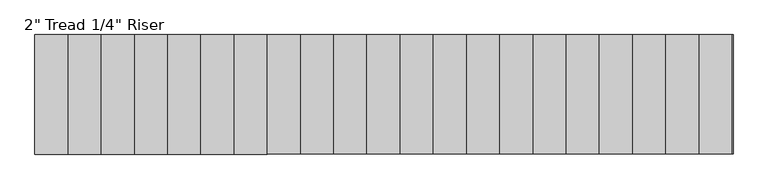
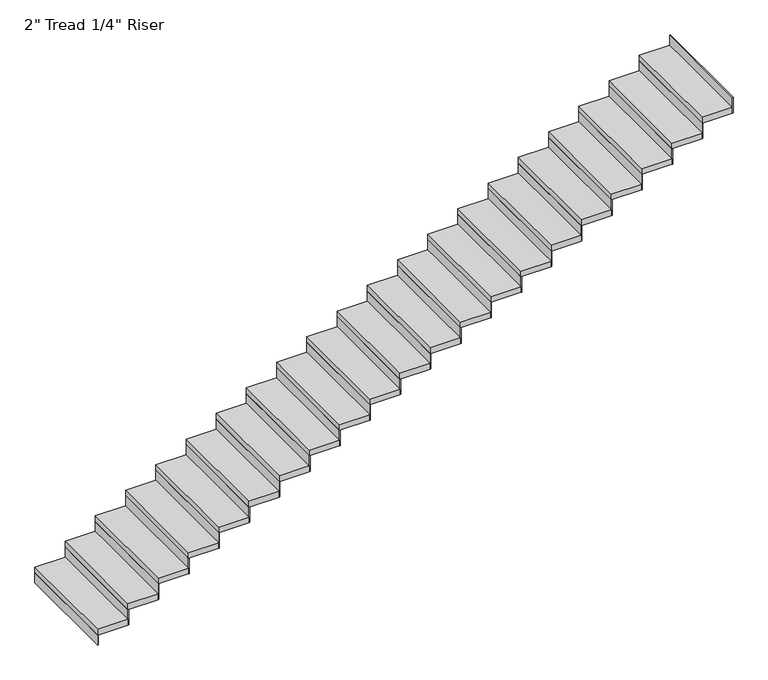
"""IFC4 building model written with IfcOpenShell, lengths in millimetres: stair flight geometry."""

from ifc_helpers import new_model, si_unit, frame, origin, origin_with_axes, place, context, project, spatial, polyline, outline, extrude, source, transform, mapped, element, save


def stair_flight_b5908534(model_context):
    return source(origin(), model_context, "Body", "SweptSolid", [
        extrude(outline(polyline([(35788.2667764, -2400.7855758), (35781.9167764, -2400.7855758), (35781.9167764, -1486.3855758), (35788.2667764, -1486.3855758), (35788.2667764, -2400.7855758)])), origin_with_axes(), (0.0, 0.0, 1.0), 87.7454545),
        extrude(outline(polyline([(36035.9167764, -1486.3855758), (36035.9167764, -2400.7855758), (35781.9167764, -2400.7855758), (35781.9167764, -1486.3855758), (36035.9167764, -1486.3855758)])), frame((0.0, 0.0, 87.7454545), z_axis=(0.0, 0.0, 1.0), x_axis=(1.0, 0.0, 0.0)), (0.0, 0.0, 1.0), 50.8),
        extrude(outline(polyline([(36042.2667764, -2400.7855758), (36035.9167764, -2400.7855758), (36035.9167764, -1486.3855758), (36042.2667764, -1486.3855758), (36042.2667764, -2400.7855758)])), frame((0.0, 0.0, 87.7454545), z_axis=(0.0, 0.0, 1.0), x_axis=(1.0, 0.0, 0.0)), (0.0, 0.0, 1.0), 138.5454545),
        extrude(outline(polyline([(36289.9167764, -1486.3855758), (36289.9167764, -2400.7855758), (36035.9167764, -2400.7855758), (36035.9167764, -1486.3855758), (36289.9167764, -1486.3855758)])), frame((0.0, 0.0, 226.2909091), z_axis=(0.0, 0.0, 1.0), x_axis=(1.0, 0.0, 0.0)), (0.0, 0.0, 1.0), 50.8),
        extrude(outline(polyline([(36296.2667764, -2400.7855758), (36289.9167764, -2400.7855758), (36289.9167764, -1486.3855758), (36296.2667764, -1486.3855758), (36296.2667764, -2400.7855758)])), frame((0.0, 0.0, 226.2909091), z_axis=(0.0, 0.0, 1.0), x_axis=(1.0, 0.0, 0.0)), (0.0, 0.0, 1.0), 138.5454545),
        extrude(outline(polyline([(36543.9167764, -1486.3855758), (36543.9167764, -2400.7855758), (36289.9167764, -2400.7855758), (36289.9167764, -1486.3855758), (36543.9167764, -1486.3855758)])), frame((0.0, 0.0, 364.8363636), z_axis=(0.0, 0.0, 1.0), x_axis=(1.0, 0.0, 0.0)), (0.0, 0.0, 1.0), 50.8),
        extrude(outline(polyline([(36550.2667764, -2400.7855758), (36543.9167764, -2400.7855758), (36543.9167764, -1486.3855758), (36550.2667764, -1486.3855758), (36550.2667764, -2400.7855758)])), frame((0.0, 0.0, 364.8363636), z_axis=(0.0, 0.0, 1.0), x_axis=(1.0, 0.0, 0.0)), (0.0, 0.0, 1.0), 138.5454545),
        extrude(outline(polyline([(36797.9167764, -1486.3855758), (36797.9167764, -2400.7855758), (36543.9167764, -2400.7855758), (36543.9167764, -1486.3855758), (36797.9167764, -1486.3855758)])), frame((0.0, 0.0, 503.3818182), z_axis=(0.0, 0.0, 1.0), x_axis=(1.0, 0.0, 0.0)), (0.0, 0.0, 1.0), 50.8),
        extrude(outline(polyline([(36804.2667764, -2400.7855758), (36797.9167764, -2400.7855758), (36797.9167764, -1486.3855758), (36804.2667764, -1486.3855758), (36804.2667764, -2400.7855758)])), frame((0.0, 0.0, 503.3818182), z_axis=(0.0, 0.0, 1.0), x_axis=(1.0, 0.0, 0.0)), (0.0, 0.0, 1.0), 138.5454545),
        extrude(outline(polyline([(37051.9167764, -1486.3855758), (37051.9167764, -2400.7855758), (36797.9167764, -2400.7855758), (36797.9167764, -1486.3855758), (37051.9167764, -1486.3855758)])), frame((0.0, 0.0, 641.9272727), z_axis=(0.0, 0.0, 1.0), x_axis=(1.0, 0.0, 0.0)), (0.0, 0.0, 1.0), 50.8),
        extrude(outline(polyline([(37058.2667764, -2400.7855758), (37051.9167764, -2400.7855758), (37051.9167764, -1486.3855758), (37058.2667764, -1486.3855758), (37058.2667764, -2400.7855758)])), frame((0.0, 0.0, 641.9272727), z_axis=(0.0, 0.0, 1.0), x_axis=(1.0, 0.0, 0.0)), (0.0, 0.0, 1.0), 138.5454545),
        extrude(outline(polyline([(37305.9167764, -1486.3855758), (37305.9167764, -2400.7855758), (37051.9167764, -2400.7855758), (37051.9167764, -1486.3855758), (37305.9167764, -1486.3855758)])), frame((0.0, 0.0, 780.4727273), z_axis=(0.0, 0.0, 1.0), x_axis=(1.0, 0.0, 0.0)), (0.0, 0.0, 1.0), 50.8),
        extrude(outline(polyline([(37312.2667764, -2400.7855758), (37305.9167764, -2400.7855758), (37305.9167764, -1486.3855758), (37312.2667764, -1486.3855758), (37312.2667764, -2400.7855758)])), frame((0.0, 0.0, 780.4727273), z_axis=(0.0, 0.0, 1.0), x_axis=(1.0, 0.0, 0.0)), (0.0, 0.0, 1.0), 138.5454545),
        extrude(outline(polyline([(37559.9167764, -1486.3855758), (37559.9167764, -2400.7855758), (37305.9167764, -2400.7855758), (37305.9167764, -1486.3855758), (37559.9167764, -1486.3855758)])), frame((0.0, 0.0, 919.0181818), z_axis=(0.0, 0.0, 1.0), x_axis=(1.0, 0.0, 0.0)), (0.0, 0.0, 1.0), 50.8),
        extrude(outline(polyline([(37566.2667764, -2400.7855758), (37559.9167764, -2400.7855758), (37559.9167764, -1486.3855758), (37566.2667764, -1486.3855758), (37566.2667764, -2400.7855758)])), frame((0.0, 0.0, 919.0181818), z_axis=(0.0, 0.0, 1.0), x_axis=(1.0, 0.0, 0.0)), (0.0, 0.0, 1.0), 138.5454545),
        extrude(outline(polyline([(37813.9167764, -1486.3855758), (37813.9167764, -2400.7855758), (37559.9167764, -2400.7855758), (37559.9167764, -1486.3855758), (37813.9167764, -1486.3855758)])), frame((0.0, 0.0, 1057.5636364), z_axis=(0.0, 0.0, 1.0), x_axis=(1.0, 0.0, 0.0)), (0.0, 0.0, 1.0), 50.8),
        extrude(outline(polyline([(37820.2667764, -2400.7855758), (37813.9167764, -2400.7855758), (37813.9167764, -1486.3855758), (37820.2667764, -1486.3855758), (37820.2667764, -2400.7855758)])), frame((0.0, 0.0, 1057.5636364), z_axis=(0.0, 0.0, 1.0), x_axis=(1.0, 0.0, 0.0)), (0.0, 0.0, 1.0), 138.5454545),
        extrude(outline(polyline([(38067.9167764, -1486.3855758), (38067.9167764, -2400.7855758), (37813.9167764, -2400.7855758), (37813.9167764, -1486.3855758), (38067.9167764, -1486.3855758)])), frame((0.0, 0.0, 1196.1090909), z_axis=(0.0, 0.0, 1.0), x_axis=(1.0, 0.0, 0.0)), (0.0, 0.0, 1.0), 50.8),
        extrude(outline(polyline([(38074.2667764, -2400.7855758), (38067.9167764, -2400.7855758), (38067.9167764, -1486.3855758), (38074.2667764, -1486.3855758), (38074.2667764, -2400.7855758)])), frame((0.0, 0.0, 1196.1090909), z_axis=(0.0, 0.0, 1.0), x_axis=(1.0, 0.0, 0.0)), (0.0, 0.0, 1.0), 138.5454545),
        extrude(outline(polyline([(38321.9167764, -1486.3855758), (38321.9167764, -2400.7855758), (38067.9167764, -2400.7855758), (38067.9167764, -1486.3855758), (38321.9167764, -1486.3855758)])), frame((0.0, 0.0, 1334.6545455), z_axis=(0.0, 0.0, 1.0), x_axis=(1.0, 0.0, 0.0)), (0.0, 0.0, 1.0), 50.8),
        extrude(outline(polyline([(38328.2667764, -2400.7855758), (38321.9167764, -2400.7855758), (38321.9167764, -1486.3855758), (38328.2667764, -1486.3855758), (38328.2667764, -2400.7855758)])), frame((0.0, 0.0, 1334.6545455), z_axis=(0.0, 0.0, 1.0), x_axis=(1.0, 0.0, 0.0)), (0.0, 0.0, 1.0), 138.5454545),
        extrude(outline(polyline([(38575.9167764, -1486.3855758), (38575.9167764, -2400.7855758), (38321.9167764, -2400.7855758), (38321.9167764, -1486.3855758), (38575.9167764, -1486.3855758)])), frame((0.0, 0.0, 1473.2), z_axis=(0.0, 0.0, 1.0), x_axis=(1.0, 0.0, 0.0)), (0.0, 0.0, 1.0), 50.8),
        extrude(outline(polyline([(38582.2667764, -2400.7855758), (38575.9167764, -2400.7855758), (38575.9167764, -1486.3855758), (38582.2667764, -1486.3855758), (38582.2667764, -2400.7855758)])), frame((0.0, 0.0, 1473.2), z_axis=(0.0, 0.0, 1.0), x_axis=(1.0, 0.0, 0.0)), (0.0, 0.0, 1.0), 138.5454545),
        extrude(outline(polyline([(38829.9167764, -1486.3855758), (38829.9167764, -2400.7855758), (38575.9167764, -2400.7855758), (38575.9167764, -1486.3855758), (38829.9167764, -1486.3855758)])), frame((0.0, 0.0, 1611.7454545), z_axis=(0.0, 0.0, 1.0), x_axis=(1.0, 0.0, 0.0)), (0.0, 0.0, 1.0), 50.8),
        extrude(outline(polyline([(38836.2667764, -2400.7855758), (38829.9167764, -2400.7855758), (38829.9167764, -1486.3855758), (38836.2667764, -1486.3855758), (38836.2667764, -2400.7855758)])), frame((0.0, 0.0, 1611.7454545), z_axis=(0.0, 0.0, 1.0), x_axis=(1.0, 0.0, 0.0)), (0.0, 0.0, 1.0), 138.5454545),
        extrude(outline(polyline([(39083.9167764, -1486.3855758), (39083.9167764, -2400.7855758), (38829.9167764, -2400.7855758), (38829.9167764, -1486.3855758), (39083.9167764, -1486.3855758)])), frame((0.0, 0.0, 1750.2909091), z_axis=(0.0, 0.0, 1.0), x_axis=(1.0, 0.0, 0.0)), (0.0, 0.0, 1.0), 50.8),
        extrude(outline(polyline([(39090.2667764, -2400.7855758), (39083.9167764, -2400.7855758), (39083.9167764, -1486.3855758), (39090.2667764, -1486.3855758), (39090.2667764, -2400.7855758)])), frame((0.0, 0.0, 1750.2909091), z_axis=(0.0, 0.0, 1.0), x_axis=(1.0, 0.0, 0.0)), (0.0, 0.0, 1.0), 138.5454545),
        extrude(outline(polyline([(39337.9167764, -1486.3855758), (39337.9167764, -2400.7855758), (39083.9167764, -2400.7855758), (39083.9167764, -1486.3855758), (39337.9167764, -1486.3855758)])), frame((0.0, 0.0, 1888.8363636), z_axis=(0.0, 0.0, 1.0), x_axis=(1.0, 0.0, 0.0)), (0.0, 0.0, 1.0), 50.8),
        extrude(outline(polyline([(39344.2667764, -2400.7855758), (39337.9167764, -2400.7855758), (39337.9167764, -1486.3855758), (39344.2667764, -1486.3855758), (39344.2667764, -2400.7855758)])), frame((0.0, 0.0, 1888.8363636), z_axis=(0.0, 0.0, 1.0), x_axis=(1.0, 0.0, 0.0)), (0.0, 0.0, 1.0), 138.5454545),
        extrude(outline(polyline([(39591.9167764, -1486.3855758), (39591.9167764, -2400.7855758), (39337.9167764, -2400.7855758), (39337.9167764, -1486.3855758), (39591.9167764, -1486.3855758)])), frame((0.0, 0.0, 2027.3818182), z_axis=(0.0, 0.0, 1.0), x_axis=(1.0, 0.0, 0.0)), (0.0, 0.0, 1.0), 50.8),
        extrude(outline(polyline([(39598.2667764, -2400.7855758), (39591.9167764, -2400.7855758), (39591.9167764, -1486.3855758), (39598.2667764, -1486.3855758), (39598.2667764, -2400.7855758)])), frame((0.0, 0.0, 2027.3818182), z_axis=(0.0, 0.0, 1.0), x_axis=(1.0, 0.0, 0.0)), (0.0, 0.0, 1.0), 138.5454545),
        extrude(outline(polyline([(39845.9167764, -1486.3855758), (39845.9167764, -2400.7855758), (39591.9167764, -2400.7855758), (39591.9167764, -1486.3855758), (39845.9167764, -1486.3855758)])), frame((0.0, 0.0, 2165.9272727), z_axis=(0.0, 0.0, 1.0), x_axis=(1.0, 0.0, 0.0)), (0.0, 0.0, 1.0), 50.8),
        extrude(outline(polyline([(39852.2667764, -2400.7855758), (39845.9167764, -2400.7855758), (39845.9167764, -1486.3855758), (39852.2667764, -1486.3855758), (39852.2667764, -2400.7855758)])), frame((0.0, 0.0, 2165.9272727), z_axis=(0.0, 0.0, 1.0), x_axis=(1.0, 0.0, 0.0)), (0.0, 0.0, 1.0), 138.5454545),
        extrude(outline(polyline([(40099.9167764, -1486.3855758), (40099.9167764, -2400.7855758), (39845.9167764, -2400.7855758), (39845.9167764, -1486.3855758), (40099.9167764, -1486.3855758)])), frame((0.0, 0.0, 2304.4727273), z_axis=(0.0, 0.0, 1.0), x_axis=(1.0, 0.0, 0.0)), (0.0, 0.0, 1.0), 50.8),
        extrude(outline(polyline([(40106.2667764, -2400.7855758), (40099.9167764, -2400.7855758), (40099.9167764, -1486.3855758), (40106.2667764, -1486.3855758), (40106.2667764, -2400.7855758)])), frame((0.0, 0.0, 2304.4727273), z_axis=(0.0, 0.0, 1.0), x_axis=(1.0, 0.0, 0.0)), (0.0, 0.0, 1.0), 138.5454545),
        extrude(outline(polyline([(40353.9167764, -1486.3855758), (40353.9167764, -2400.7855758), (40099.9167764, -2400.7855758), (40099.9167764, -1486.3855758), (40353.9167764, -1486.3855758)])), frame((0.0, 0.0, 2443.0181818), z_axis=(0.0, 0.0, 1.0), x_axis=(1.0, 0.0, 0.0)), (0.0, 0.0, 1.0), 50.8),
        extrude(outline(polyline([(40360.2667764, -2400.7855758), (40353.9167764, -2400.7855758), (40353.9167764, -1486.3855758), (40360.2667764, -1486.3855758), (40360.2667764, -2400.7855758)])), frame((0.0, 0.0, 2443.0181818), z_axis=(0.0, 0.0, 1.0), x_axis=(1.0, 0.0, 0.0)), (0.0, 0.0, 1.0), 138.5454545),
        extrude(outline(polyline([(40607.9167764, -1486.3855758), (40607.9167764, -2400.7855758), (40353.9167764, -2400.7855758), (40353.9167764, -1486.3855758), (40607.9167764, -1486.3855758)])), frame((0.0, 0.0, 2581.5636364), z_axis=(0.0, 0.0, 1.0), x_axis=(1.0, 0.0, 0.0)), (0.0, 0.0, 1.0), 50.8),
        extrude(outline(polyline([(40614.2667764, -2400.7855758), (40607.9167764, -2400.7855758), (40607.9167764, -1486.3855758), (40614.2667764, -1486.3855758), (40614.2667764, -2400.7855758)])), frame((0.0, 0.0, 2581.5636364), z_axis=(0.0, 0.0, 1.0), x_axis=(1.0, 0.0, 0.0)), (0.0, 0.0, 1.0), 138.5454545),
        extrude(outline(polyline([(40861.9167764, -1486.3855758), (40861.9167764, -2400.7855758), (40607.9167764, -2400.7855758), (40607.9167764, -1486.3855758), (40861.9167764, -1486.3855758)])), frame((0.0, 0.0, 2720.1090909), z_axis=(0.0, 0.0, 1.0), x_axis=(1.0, 0.0, 0.0)), (0.0, 0.0, 1.0), 50.8),
        extrude(outline(polyline([(40868.2667764, -2400.7855758), (40861.9167764, -2400.7855758), (40861.9167764, -1486.3855758), (40868.2667764, -1486.3855758), (40868.2667764, -2400.7855758)])), frame((0.0, 0.0, 2720.1090909), z_axis=(0.0, 0.0, 1.0), x_axis=(1.0, 0.0, 0.0)), (0.0, 0.0, 1.0), 138.5454545),
        extrude(outline(polyline([(41122.2667764, -2400.7855758), (41115.9167764, -2400.7855758), (41115.9167764, -1486.3855758), (41122.2667764, -1486.3855758), (41122.2667764, -2400.7855758)])), frame((0.0, 0.0, 2858.6545455), z_axis=(0.0, 0.0, 1.0), x_axis=(1.0, 0.0, 0.0)), (0.0, 0.0, 1.0), 138.5454545),
        extrude(outline(polyline([(41115.9167764, -1486.3855758), (41115.9167764, -2400.7855758), (40861.9167764, -2400.7855758), (40861.9167764, -1486.3855758), (41115.9167764, -1486.3855758)])), frame((0.0, 0.0, 2858.6545455), z_axis=(0.0, 0.0, 1.0), x_axis=(1.0, 0.0, 0.0)), (0.0, 0.0, 1.0), 50.8),
    ])


if __name__ == "__main__":
    model = new_model("IFC4")
    model_context = context("Model", 3, world=origin())
    ifc_project = project(units=[si_unit("LENGTHUNIT", "METRE", prefix="MILLI")], contexts=[model_context])
    site = spatial("IfcSite", under=ifc_project)
    building = spatial("IfcBuilding", under=site)
    placement = place(None, origin())
    stair_flight_shape = stair_flight_b5908534(model_context)
    element("IfcStairFlight", 1, ObjectType="2\" Tread 1/4\" Riser", at=placement, inside=building, context=model_context, shape_type="MappedRepresentation", body=[
        mapped(stair_flight_shape, transform((0.0, 0.0, 0.0), x_axis=(1.0, 0.0, 0.0), y_axis=(0.0, 1.0, 0.0), z_axis=(0.0, 0.0, 1.0))),
    ])
    save(model, "model.ifc")
